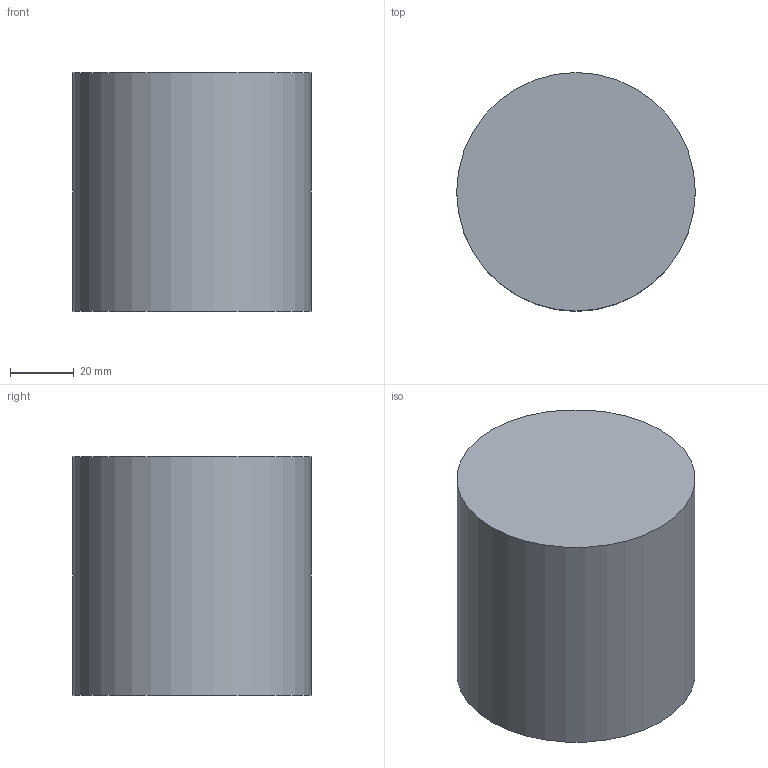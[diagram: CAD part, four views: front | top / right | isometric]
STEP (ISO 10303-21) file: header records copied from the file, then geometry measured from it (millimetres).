
FILE_DESCRIPTION(('Open CASCADE Model'),'2;1');
FILE_NAME('Open CASCADE Shape Model','2026-10-19T10:09:22',('Author'),( 'Open CASCADE'),'Open CASCADE STEP processor 8.0','Open CASCADE 8.0' ,'Unknown');
FILE_SCHEMA(('AUTOMOTIVE_DESIGN { 1 0 10303 214 1 1 1 1 }'));
Length unit declared in the file: millimetre
Products named in the file (1): TOPE_ACE_TS75_39_D75_L75_REF 149
Bounding box: 75 x 75 x 75 mm (x, y, z)
Volume: 331339.9 mm3; surface area: 26507.2 mm2
Topology: 1 solids, 1 shells, 3 faces, 3 edges, 2 vertices
Faces by surface type: plane 2, cylinder 1
Full cylindrical faces by diameter (mm): 75 x1
Entity records: 108 total; most frequent: DIRECTION 19, CARTESIAN_POINT 15, AXIS2_PLACEMENT_3D 6, ORIENTED_EDGE 6, PCURVE 6, DEFINITIONAL_REPRESENTATION 6, LINE 5, VECTOR 5
